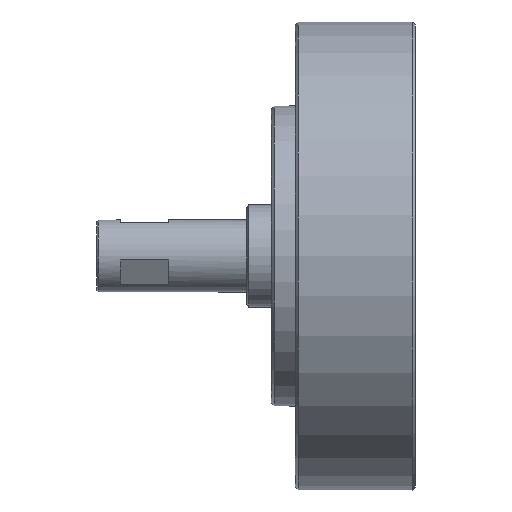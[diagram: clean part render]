
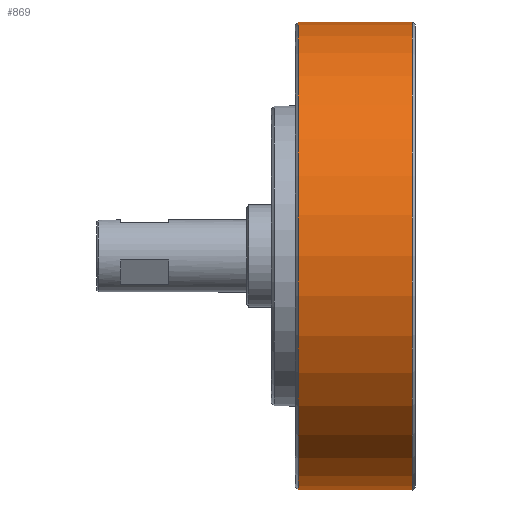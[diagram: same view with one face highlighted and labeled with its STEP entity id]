
A CAD part, top view. The second image highlights one B-rep face of the part: STEP entity #869.
In plain terms, the highlighted cylindrical face has radius 39 mm (diameter 78 mm), a partial arc.
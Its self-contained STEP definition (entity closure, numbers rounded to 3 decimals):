
#665 = VERTEX_POINT ( 'NONE', #2767 ) ;
#669 = ORIENTED_EDGE ( 'NONE', *, *, #876, .F. ) ;
#670 = EDGE_CURVE ( 'NONE', #665, #865, #2764, .T. ) ;
#671 = ORIENTED_EDGE ( 'NONE', *, *, #677, .F. ) ;
#673 = ORIENTED_EDGE ( 'NONE', *, *, #670, .T. ) ;
#674 = EDGE_CURVE ( 'NONE', #675, #665, #2760, .T. ) ;
#675 = VERTEX_POINT ( 'NONE', #2822 ) ;
#677 = EDGE_CURVE ( 'NONE', #675, #856, #2820, .T. ) ;
#856 = VERTEX_POINT ( 'NONE', #3196 ) ;
#865 = VERTEX_POINT ( 'NONE', #3228 ) ;
#868 = EDGE_LOOP ( 'NONE', ( #873, #673, #669, #671 ) ) ;
#869 = ADVANCED_FACE ( 'NONE', ( #3227 ), #3225, .T. ) ;
#873 = ORIENTED_EDGE ( 'NONE', *, *, #674, .T. ) ;
#876 = EDGE_CURVE ( 'NONE', #856, #865, #3214, .T. ) ;
#2756 = DIRECTION ( 'NONE',  ( 0., 1., 0. ) ) ;
#2757 = DIRECTION ( 'NONE',  ( 1., 0., 0. ) ) ;
#2758 = CARTESIAN_POINT ( 'NONE',  ( 24.5, 0., 0. ) ) ;
#2759 = AXIS2_PLACEMENT_3D ( 'NONE', #2758, #2757, #2756 ) ;
#2760 = CIRCLE ( 'NONE', #2759, 39. ) ;
#2761 = DIRECTION ( 'NONE',  ( 1., 0., 0. ) ) ;
#2762 = VECTOR ( 'NONE', #2761, 1000. ) ;
#2763 = CARTESIAN_POINT ( 'NONE',  ( 40., -39., 0. ) ) ;
#2764 = LINE ( 'NONE', #2763, #2762 ) ;
#2767 = CARTESIAN_POINT ( 'NONE',  ( 24.5, -39., 0. ) ) ;
#2817 = DIRECTION ( 'NONE',  ( 1., 0., 0. ) ) ;
#2818 = VECTOR ( 'NONE', #2817, 1000. ) ;
#2819 = CARTESIAN_POINT ( 'NONE',  ( 40., 39., 0. ) ) ;
#2820 = LINE ( 'NONE', #2819, #2818 ) ;
#2822 = CARTESIAN_POINT ( 'NONE',  ( 24.5, 39., 0. ) ) ;
#3196 = CARTESIAN_POINT ( 'NONE',  ( 43.5, 39., 0. ) ) ;
#3210 = DIRECTION ( 'NONE',  ( 0., -1., 0. ) ) ;
#3211 = DIRECTION ( 'NONE',  ( 1., 0., 0. ) ) ;
#3212 = CARTESIAN_POINT ( 'NONE',  ( 43.5, 0., 0. ) ) ;
#3213 = AXIS2_PLACEMENT_3D ( 'NONE', #3212, #3211, #3210 ) ;
#3214 = CIRCLE ( 'NONE', #3213, 39. ) ;
#3222 = DIRECTION ( 'NONE',  ( 0., 1., 0. ) ) ;
#3223 = DIRECTION ( 'NONE',  ( 1., 0., 0. ) ) ;
#3224 = AXIS2_PLACEMENT_3D ( 'NONE', #3226, #3223, #3222 ) ;
#3225 = CYLINDRICAL_SURFACE ( 'NONE', #3224, 39. ) ;
#3226 = CARTESIAN_POINT ( 'NONE',  ( 40., 0., 0. ) ) ;
#3227 = FACE_OUTER_BOUND ( 'NONE', #868, .T. ) ;
#3228 = CARTESIAN_POINT ( 'NONE',  ( 43.5, -39., 0. ) ) ;
